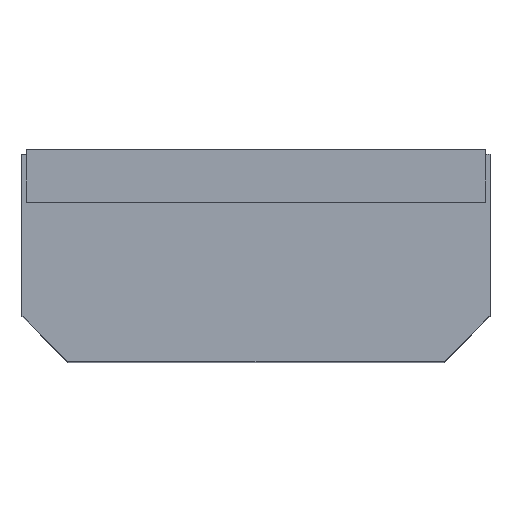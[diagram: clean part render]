
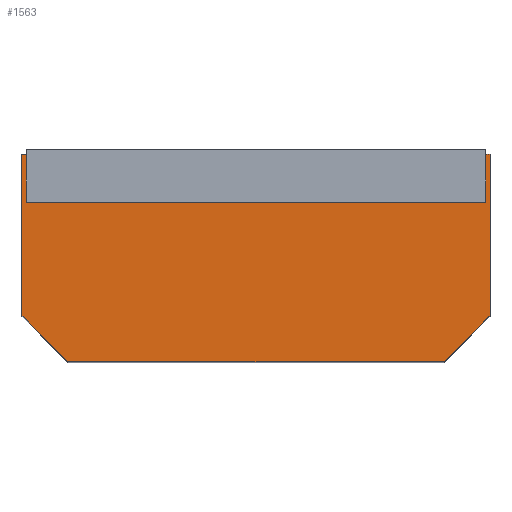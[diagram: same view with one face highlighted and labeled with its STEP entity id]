
A CAD part, top view. The second image highlights one B-rep face of the part: STEP entity #1563.
In plain terms, the highlighted planar face has unit normal (0, 0, 1).
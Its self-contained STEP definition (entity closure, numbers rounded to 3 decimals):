
#1290=CARTESIAN_POINT('',(6.828,-2.415,9.906));
#1289=VERTEX_POINT('',#1290);
#1300=CARTESIAN_POINT('',(-1.748,-2.415,9.906));
#1299=VERTEX_POINT('',#1300);
#1298=EDGE_CURVE('',#1299,#1289,#1303,.T.);
#1303=LINE('',#1300,#1305);
#1305=VECTOR('',#1306,8.577);
#1306=DIRECTION('',(1.0,0.0,0.0));
#1339=CARTESIAN_POINT('',(7.875,-1.368,9.906));
#1338=VERTEX_POINT('',#1339);
#1347=EDGE_CURVE('',#1289,#1338,#1352,.T.);
#1352=LINE('',#1290,#1354);
#1354=VECTOR('',#1355,1.48);
#1355=DIRECTION('',(0.707,0.707,0.0));
#1388=CARTESIAN_POINT('',(7.875,2.313,9.906));
#1387=VERTEX_POINT('',#1388);
#1396=EDGE_CURVE('',#1338,#1387,#1401,.T.);
#1401=LINE('',#1339,#1403);
#1403=VECTOR('',#1404,3.682);
#1404=DIRECTION('',(0.0,1.0,0.0));
#1437=CARTESIAN_POINT('',(-2.795,2.313,9.906));
#1436=VERTEX_POINT('',#1437);
#1445=EDGE_CURVE('',#1387,#1436,#1450,.T.);
#1450=LINE('',#1388,#1452);
#1452=VECTOR('',#1453,10.67);
#1453=DIRECTION('',(-1.0,0.0,0.0));
#1486=CARTESIAN_POINT('',(-2.795,-1.368,9.906));
#1485=VERTEX_POINT('',#1486);
#1494=EDGE_CURVE('',#1436,#1485,#1499,.T.);
#1499=LINE('',#1437,#1501);
#1501=VECTOR('',#1502,3.682);
#1502=DIRECTION('',(0.0,-1.0,0.0));
#1543=EDGE_CURVE('',#1485,#1299,#1548,.T.);
#1548=LINE('',#1486,#1550);
#1550=VECTOR('',#1551,1.48);
#1551=DIRECTION('',(0.707,-0.707,0.0));
#1563=ADVANCED_FACE('',(#1569),#1564,.T.);
#1564=PLANE('',#1565);
#1565=AXIS2_PLACEMENT_3D('',#1566,#1567,#1568);
#1566=CARTESIAN_POINT('',(7.875,2.313,9.906));
#1567=DIRECTION('',(0.0,0.0,1.0));
#1568=DIRECTION('',(0.,1.,0.));
#1569=FACE_OUTER_BOUND('',#1570,.T.);
#1570=EDGE_LOOP('',(#1571,#1581,#1591,#1601,#1611,#1621));
#1571=ORIENTED_EDGE('',*,*,#1445,.T.);
#1581=ORIENTED_EDGE('',*,*,#1494,.T.);
#1591=ORIENTED_EDGE('',*,*,#1543,.T.);
#1601=ORIENTED_EDGE('',*,*,#1298,.T.);
#1611=ORIENTED_EDGE('',*,*,#1347,.T.);
#1621=ORIENTED_EDGE('',*,*,#1396,.T.);
